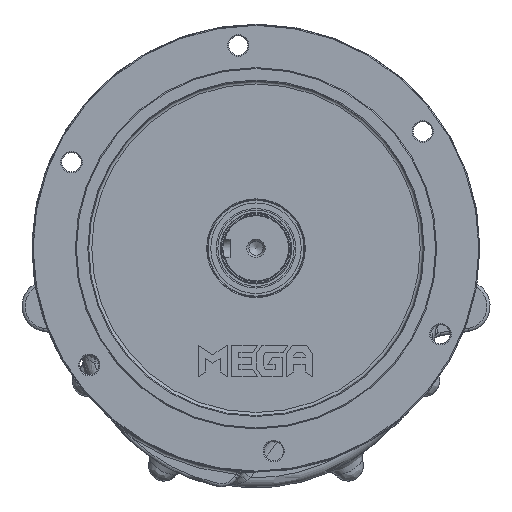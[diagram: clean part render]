
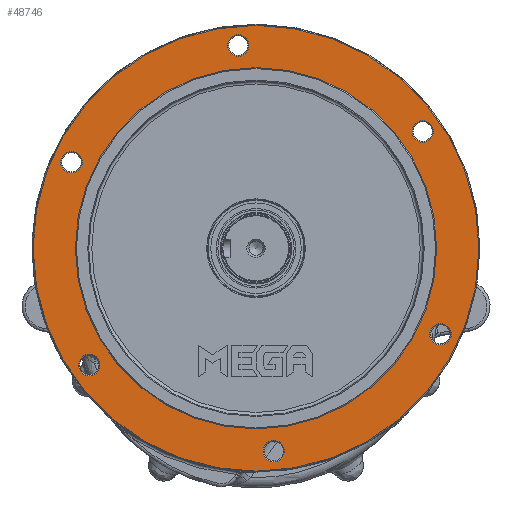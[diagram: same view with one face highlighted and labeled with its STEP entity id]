
A CAD part, front view. The second image highlights one B-rep face of the part: STEP entity #48746.
In plain terms, the highlighted planar face has unit normal (0, -1, 0).
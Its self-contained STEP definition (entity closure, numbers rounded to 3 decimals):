
#961=FACE_BOUND('',#7814,.T.);
#962=FACE_BOUND('',#7815,.T.);
#963=FACE_BOUND('',#7816,.T.);
#964=FACE_BOUND('',#7817,.T.);
#965=FACE_BOUND('',#7818,.T.);
#966=FACE_BOUND('',#7819,.T.);
#967=FACE_BOUND('',#7820,.T.);
#1743=PLANE('',#53833);
#4773=FACE_OUTER_BOUND('',#7813,.T.);
#7813=EDGE_LOOP('',(#40435));
#7814=EDGE_LOOP('',(#40436));
#7815=EDGE_LOOP('',(#40437));
#7816=EDGE_LOOP('',(#40438));
#7817=EDGE_LOOP('',(#40439));
#7818=EDGE_LOOP('',(#40440));
#7819=EDGE_LOOP('',(#40441));
#7820=EDGE_LOOP('',(#40442));
#10904=CIRCLE('',#53672,219.);
#10907=CIRCLE('',#53677,177.5);
#10964=CIRCLE('',#53799,10.5);
#10975=CIRCLE('',#53814,10.5);
#10978=CIRCLE('',#53819,10.5);
#10981=CIRCLE('',#53824,10.5);
#10984=CIRCLE('',#53829,10.5);
#10987=CIRCLE('',#53834,10.5);
#21469=VERTEX_POINT('',#105703);
#21472=VERTEX_POINT('',#105712);
#21556=VERTEX_POINT('',#107343);
#21564=VERTEX_POINT('',#107368);
#21567=VERTEX_POINT('',#107378);
#21570=VERTEX_POINT('',#107388);
#21573=VERTEX_POINT('',#107398);
#21576=VERTEX_POINT('',#107408);
#27811=EDGE_CURVE('',#21469,#21469,#10904,.T.);
#27815=EDGE_CURVE('',#21472,#21472,#10907,.T.);
#28004=EDGE_CURVE('',#21556,#21556,#10964,.T.);
#28017=EDGE_CURVE('',#21564,#21564,#10975,.T.);
#28022=EDGE_CURVE('',#21567,#21567,#10978,.T.);
#28027=EDGE_CURVE('',#21570,#21570,#10981,.T.);
#28032=EDGE_CURVE('',#21573,#21573,#10984,.T.);
#28037=EDGE_CURVE('',#21576,#21576,#10987,.T.);
#40435=ORIENTED_EDGE('',*,*,#27811,.F.);
#40436=ORIENTED_EDGE('',*,*,#28032,.F.);
#40437=ORIENTED_EDGE('',*,*,#28022,.F.);
#40438=ORIENTED_EDGE('',*,*,#28004,.F.);
#40439=ORIENTED_EDGE('',*,*,#27815,.F.);
#40440=ORIENTED_EDGE('',*,*,#28017,.F.);
#40441=ORIENTED_EDGE('',*,*,#28027,.F.);
#40442=ORIENTED_EDGE('',*,*,#28037,.F.);
#48746=ADVANCED_FACE('',(#4773,#961,#962,#963,#964,#965,#966,#967),#1743,
 .T.);
#53672=AXIS2_PLACEMENT_3D('',#105705,#65492,#65493);
#53677=AXIS2_PLACEMENT_3D('',#105714,#65503,#65504);
#53799=AXIS2_PLACEMENT_3D('',#107344,#65834,#65835);
#53814=AXIS2_PLACEMENT_3D('',#107369,#65866,#65867);
#53819=AXIS2_PLACEMENT_3D('',#107379,#65878,#65879);
#53824=AXIS2_PLACEMENT_3D('',#107389,#65890,#65891);
#53829=AXIS2_PLACEMENT_3D('',#107399,#65902,#65903);
#53833=AXIS2_PLACEMENT_3D('',#107407,#65912,#65913);
#53834=AXIS2_PLACEMENT_3D('',#107409,#65914,#65915);
#65492=DIRECTION('center_axis',(0.,1.,0.));
#65493=DIRECTION('ref_axis',(-1.,0.,0.));
#65503=DIRECTION('center_axis',(0.,-1.,0.));
#65504=DIRECTION('ref_axis',(-1.,0.,0.));
#65834=DIRECTION('center_axis',(0.,-1.,0.));
#65835=DIRECTION('ref_axis',(-1.,0.,0.));
#65866=DIRECTION('center_axis',(0.,-1.,0.));
#65867=DIRECTION('ref_axis',(-0.5,0.,0.866));
#65878=DIRECTION('center_axis',(0.,-1.,0.));
#65879=DIRECTION('ref_axis',(0.5,0.,0.866));
#65890=DIRECTION('center_axis',(0.,-1.,0.));
#65891=DIRECTION('ref_axis',(1.,0.,0.));
#65902=DIRECTION('center_axis',(0.,-1.,0.));
#65903=DIRECTION('ref_axis',(0.5,0.,-0.866));
#65912=DIRECTION('center_axis',(0.,-1.,0.));
#65913=DIRECTION('ref_axis',(0.,0.,-1.));
#65914=DIRECTION('center_axis',(0.,-1.,0.));
#65915=DIRECTION('ref_axis',(-0.5,0.,-0.866));
#105703=CARTESIAN_POINT('',(206.309,-221.258,55.25));
#105705=CARTESIAN_POINT('Origin',(-12.691,-221.258,55.25));
#105712=CARTESIAN_POINT('',(164.809,-221.258,55.25));
#105714=CARTESIAN_POINT('Origin',(-12.691,-221.258,55.25));
#107343=CARTESIAN_POINT('',(-19.622,-221.258,254.489));
#107344=CARTESIAN_POINT('Origin',(-30.122,-221.258,254.489));
#107368=CARTESIAN_POINT('',(156.389,-221.258,160.872));
#107369=CARTESIAN_POINT('Origin',(151.139,-221.258,169.965));
#107378=CARTESIAN_POINT('',(163.32,-221.258,-38.367));
#107379=CARTESIAN_POINT('Origin',(168.57,-221.258,-29.274));
#107388=CARTESIAN_POINT('',(-5.76,-221.258,-143.989));
#107389=CARTESIAN_POINT('Origin',(4.74,-221.258,-143.989));
#107398=CARTESIAN_POINT('',(-181.772,-221.258,-50.372));
#107399=CARTESIAN_POINT('Origin',(-176.522,-221.258,-59.465));
#107407=CARTESIAN_POINT('Origin',(-12.691,-221.258,55.25));
#107408=CARTESIAN_POINT('',(-188.703,-221.258,148.867));
#107409=CARTESIAN_POINT('Origin',(-193.953,-221.258,139.774));
